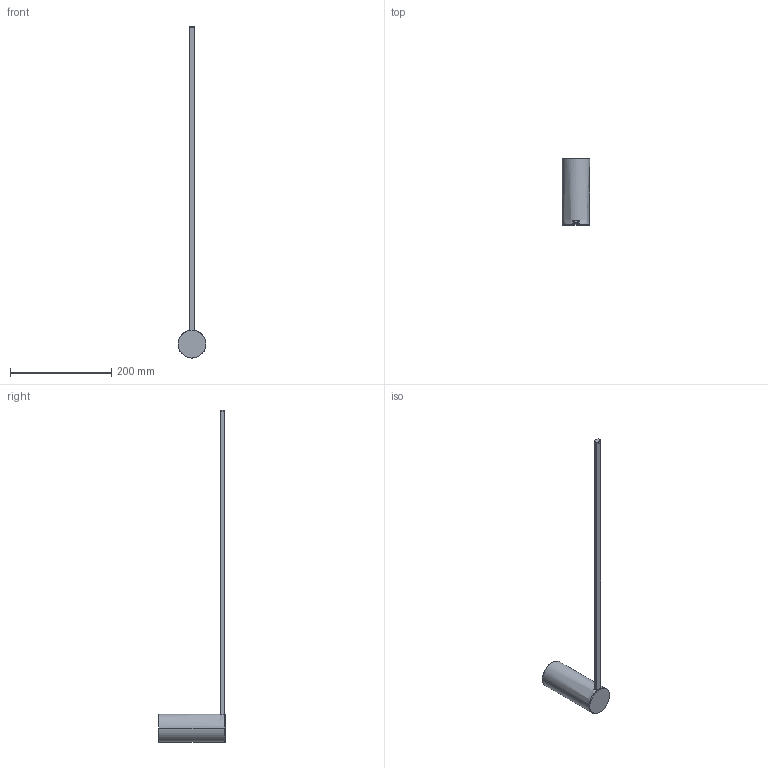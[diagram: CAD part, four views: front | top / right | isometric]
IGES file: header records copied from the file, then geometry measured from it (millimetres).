
Start section: SolidWorks IGES file using analytic representation for surfaces
Global section: file name: C:\Users\anna.bielnik\Desktop\modele 3D tymczasowe\ARM-LED\ARM-LED-L\ARM L PM\ARM LED L.IGS; native system: SolidWorks 2023; preprocessor: SolidWorks 2023; author: anna.bielnik; date: 230621.101206; units: millimetre
Bounding box: 55 x 132 x 655.5 mm (x, y, z)
Surface area: 99859.4 mm2 (no closed solid volume)
Topology: 0 solids, 0 shells, 52 faces, 612 edges, 612 vertices
Faces by surface type: bspline 46, revolution 6
